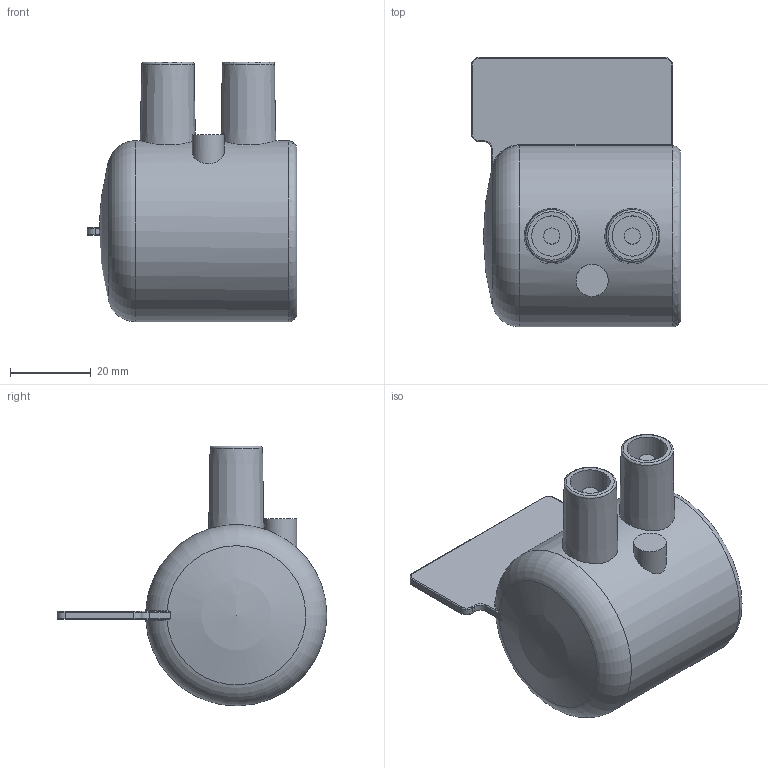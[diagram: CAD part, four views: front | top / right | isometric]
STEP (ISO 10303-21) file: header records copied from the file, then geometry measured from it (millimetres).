
FILE_DESCRIPTION(/* description */ ('Unknown'),/* implementation_level */ '2;1');
FILE_NAME(/* name */ 'CAEP032C',/* time_stamp */ '2021-02-11T10:11:24+01:00',/* author */ ('Unknown'),/* organization */ ('Unknown'),/* preprocessor_version */ 'ST-DEVELOPER v16.7',/* originating_system */ 'Solid Edge',/* authorisation */ 'Unknown');
FILE_SCHEMA (('AUTOMOTIVE_DESIGN {1 0 10303 214 3 1 1}'));
Length unit declared in the file: millimetre
Products named in the file (1): CAEP032C
Bounding box: 52 x 67 x 64.5 mm (x, y, z)
Volume: 48908.2 mm3; surface area: 18110.9 mm2
Topology: 1 solids, 1 shells, 73 faces, 162 edges, 98 vertices
Faces by surface type: cylinder 25, plane 20, torus 14, bspline 10, cone 3, sphere 1
Full cylindrical faces by diameter (mm): 4 x2, 8 x1, 10 x2, 32 x1
Entity records: 2072 total; most frequent: CARTESIAN_POINT 578, DIRECTION 313, ORIENTED_EDGE 280, EDGE_CURVE 140, AXIS2_PLACEMENT_3D 137, EDGE_LOOP 93, FACE_BOUND 93, VERTEX_POINT 89
